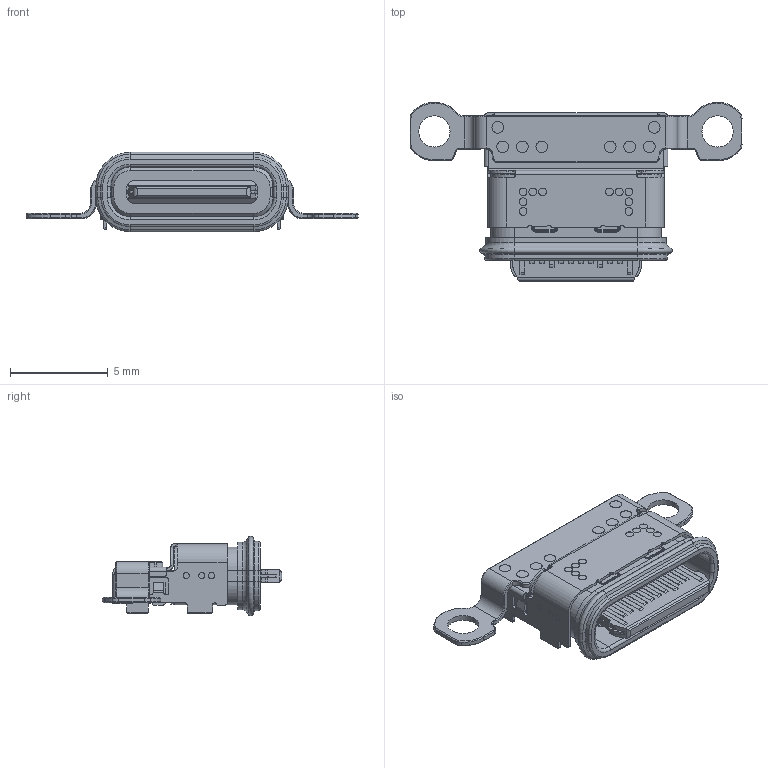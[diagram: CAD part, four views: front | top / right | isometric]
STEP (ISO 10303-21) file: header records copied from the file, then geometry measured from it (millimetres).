
FILE_DESCRIPTION(('Creo Elements/Direct Modeling STEP Export'),'2;1');
FILE_NAME('TYPE_C24P防水-3D.stp','2024-01-13T 8:07:04',(''),(''),'PTC Creo Elements/Direct Modeling STEP processor for AP214 (Solid Model)','PTC Creo Elements/Direct Modeling 19.0 09-May-2014 (C) Parametric Technology GmbH','');
FILE_SCHEMA(('AUTOMOTIVE_DESIGN { 1 0 10303 214 1 1 1 1 }'));
Length unit declared in the file: millimetre
Products named in the file (2): TYPE_C24P防水-3D
Assembly tree (1 placements, depth 2):
  TYPE_C24P防水-3D
    TYPE_C24P防水-3D
Bounding box: 17 x 9.2 x 4.07 mm (x, y, z)
Volume: 120.5 mm3; surface area: 691.8 mm2
Topology: 1 solids, 4 shells, 1519 faces, 4097 edges, 2610 vertices
Faces by surface type: plane 893, cylinder 437, cone 82, torus 64, bspline 22, sphere 18, extrusion 3
Entity records: 50715 total; most frequent: CARTESIAN_POINT 9481, ORIENTED_EDGE 8198, DIRECTION 7669, EDGE_CURVE 4095, VECTOR 2787, LINE 2784, VERTEX_POINT 2610, AXIS2_PLACEMENT_3D 2441
